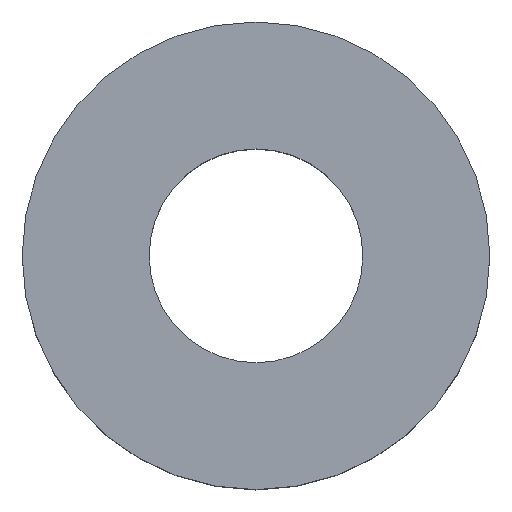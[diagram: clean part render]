
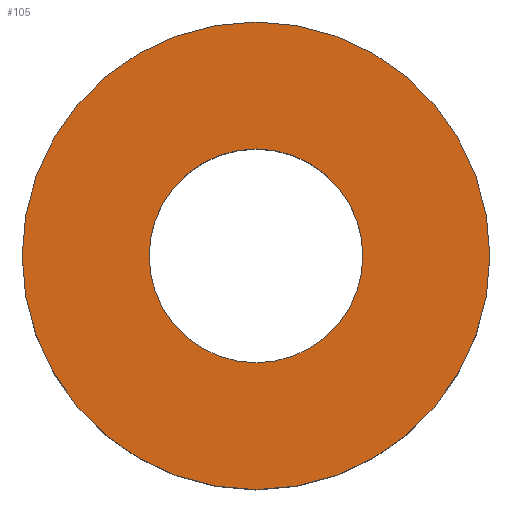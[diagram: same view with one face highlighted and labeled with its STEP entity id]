
A CAD part, top view. The second image highlights one B-rep face of the part: STEP entity #105.
In plain terms, the highlighted planar face has unit normal (0, 0, 1).
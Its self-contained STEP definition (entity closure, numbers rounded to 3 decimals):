
#21 = EDGE_CURVE('',#22,#22,#24,.T.);
#22 = VERTEX_POINT('',#23);
#23 = CARTESIAN_POINT('',(3.5,0.,2.7));
#24 = SURFACE_CURVE('',#25,(#30,#42),.PCURVE_S1.);
#25 = CIRCLE('',#26,3.5);
#26 = AXIS2_PLACEMENT_3D('',#27,#28,#29);
#27 = CARTESIAN_POINT('',(0.,0.,2.7));
#28 = DIRECTION('',(0.,0.,1.));
#29 = DIRECTION('',(1.,0.,-0.));
#30 = PCURVE('',#31,#36);
#31 = CYLINDRICAL_SURFACE('',#32,3.5);
#32 = AXIS2_PLACEMENT_3D('',#33,#34,#35);
#33 = CARTESIAN_POINT('',(0.,0.,0.));
#34 = DIRECTION('',(0.,0.,1.));
#35 = DIRECTION('',(1.,0.,-0.));
#36 = DEFINITIONAL_REPRESENTATION('',(#37),#41);
#37 = LINE('',#38,#39);
#38 = CARTESIAN_POINT('',(0.,2.7));
#39 = VECTOR('',#40,1.);
#40 = DIRECTION('',(1.,0.));
#41 = ( GEOMETRIC_REPRESENTATION_CONTEXT(2) 
PARAMETRIC_REPRESENTATION_CONTEXT() REPRESENTATION_CONTEXT('2D SPACE',''
  ) );
#42 = PCURVE('',#43,#48);
#43 = PLANE('',#44);
#44 = AXIS2_PLACEMENT_3D('',#45,#46,#47);
#45 = CARTESIAN_POINT('',(0.,0.,2.7));
#46 = DIRECTION('',(0.,0.,1.));
#47 = DIRECTION('',(1.,0.,-0.));
#48 = DEFINITIONAL_REPRESENTATION('',(#49),#53);
#49 = CIRCLE('',#50,3.5);
#50 = AXIS2_PLACEMENT_2D('',#51,#52);
#51 = CARTESIAN_POINT('',(0.,0.));
#52 = DIRECTION('',(1.,0.));
#53 = ( GEOMETRIC_REPRESENTATION_CONTEXT(2) 
PARAMETRIC_REPRESENTATION_CONTEXT() REPRESENTATION_CONTEXT('2D SPACE',''
  ) );
#105 = ADVANCED_FACE('',(#106,#109),#43,.T.);
#106 = FACE_BOUND('',#107,.T.);
#107 = EDGE_LOOP('',(#108));
#108 = ORIENTED_EDGE('',*,*,#21,.T.);
#109 = FACE_BOUND('',#110,.T.);
#110 = EDGE_LOOP('',(#111));
#111 = ORIENTED_EDGE('',*,*,#112,.F.);
#112 = EDGE_CURVE('',#113,#113,#115,.T.);
#113 = VERTEX_POINT('',#114);
#114 = CARTESIAN_POINT('',(1.6,0.,2.7));
#115 = SURFACE_CURVE('',#116,(#121,#128),.PCURVE_S1.);
#116 = CIRCLE('',#117,1.6);
#117 = AXIS2_PLACEMENT_3D('',#118,#119,#120);
#118 = CARTESIAN_POINT('',(0.,0.,2.7));
#119 = DIRECTION('',(0.,0.,1.));
#120 = DIRECTION('',(1.,0.,-0.));
#121 = PCURVE('',#43,#122);
#122 = DEFINITIONAL_REPRESENTATION('',(#123),#127);
#123 = CIRCLE('',#124,1.6);
#124 = AXIS2_PLACEMENT_2D('',#125,#126);
#125 = CARTESIAN_POINT('',(0.,0.));
#126 = DIRECTION('',(1.,0.));
#127 = ( GEOMETRIC_REPRESENTATION_CONTEXT(2) 
PARAMETRIC_REPRESENTATION_CONTEXT() REPRESENTATION_CONTEXT('2D SPACE',''
  ) );
#128 = PCURVE('',#129,#134);
#129 = CYLINDRICAL_SURFACE('',#130,1.6);
#130 = AXIS2_PLACEMENT_3D('',#131,#132,#133);
#131 = CARTESIAN_POINT('',(0.,0.,-1.));
#132 = DIRECTION('',(0.,0.,1.));
#133 = DIRECTION('',(1.,0.,-0.));
#134 = DEFINITIONAL_REPRESENTATION('',(#135),#139);
#135 = LINE('',#136,#137);
#136 = CARTESIAN_POINT('',(0.,3.7));
#137 = VECTOR('',#138,1.);
#138 = DIRECTION('',(1.,0.));
#139 = ( GEOMETRIC_REPRESENTATION_CONTEXT(2) 
PARAMETRIC_REPRESENTATION_CONTEXT() REPRESENTATION_CONTEXT('2D SPACE',''
  ) );
